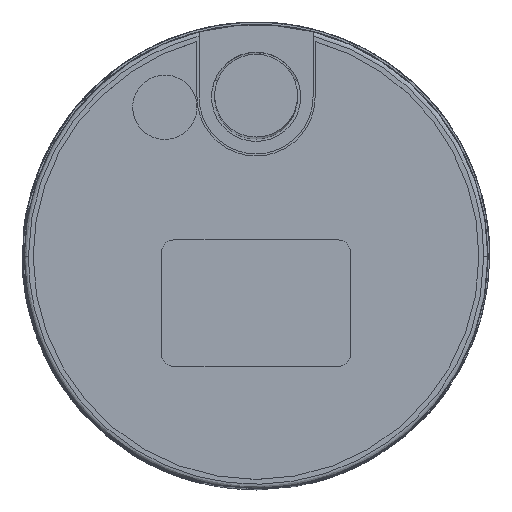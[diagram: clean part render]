
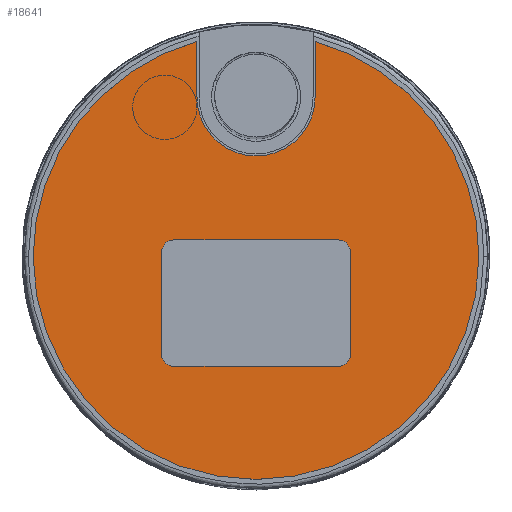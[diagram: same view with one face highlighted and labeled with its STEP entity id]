
A CAD part, top view. The second image highlights one B-rep face of the part: STEP entity #18641.
In plain terms, the highlighted planar face has unit normal (0, 0, 1).
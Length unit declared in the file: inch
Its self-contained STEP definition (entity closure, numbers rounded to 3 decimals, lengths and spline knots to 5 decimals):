
#1311 = EDGE_LOOP ( 'NONE', ( #2261, #2296, #2312, #2308, #2220, #2259 ) ) ;
#1321 = EDGE_LOOP ( 'NONE', ( #2200, #2234, #2249, #2204, #2307, #2233, #2290, #2278 ) ) ;
#2200 = ORIENTED_EDGE ( 'NONE', *, *, #27848, .T. ) ;
#2204 = ORIENTED_EDGE ( 'NONE', *, *, #27917, .T. ) ;
#2220 = ORIENTED_EDGE ( 'NONE', *, *, #27858, .T. ) ;
#2233 = ORIENTED_EDGE ( 'NONE', *, *, #27922, .T. ) ;
#2234 = ORIENTED_EDGE ( 'NONE', *, *, #27931, .T. ) ;
#2249 = ORIENTED_EDGE ( 'NONE', *, *, #27890, .T. ) ;
#2259 = ORIENTED_EDGE ( 'NONE', *, *, #27861, .T. ) ;
#2261 = ORIENTED_EDGE ( 'NONE', *, *, #27819, .T. ) ;
#2278 = ORIENTED_EDGE ( 'NONE', *, *, #27920, .T. ) ;
#2290 = ORIENTED_EDGE ( 'NONE', *, *, #27818, .T. ) ;
#2296 = ORIENTED_EDGE ( 'NONE', *, *, #27867, .T. ) ;
#2307 = ORIENTED_EDGE ( 'NONE', *, *, #27870, .T. ) ;
#2308 = ORIENTED_EDGE ( 'NONE', *, *, #27816, .T. ) ;
#2312 = ORIENTED_EDGE ( 'NONE', *, *, #27829, .T. ) ;
#3218 = VERTEX_POINT ( 'NONE', #19192 ) ;
#3233 = VERTEX_POINT ( 'NONE', #19151 ) ;
#3241 = VERTEX_POINT ( 'NONE', #19181 ) ;
#3259 = VERTEX_POINT ( 'NONE', #19184 ) ;
#3276 = VERTEX_POINT ( 'NONE', #19156 ) ;
#3311 = VERTEX_POINT ( 'NONE', #19218 ) ;
#3346 = VERTEX_POINT ( 'NONE', #19208 ) ;
#3350 = VERTEX_POINT ( 'NONE', #19214 ) ;
#3362 = VERTEX_POINT ( 'NONE', #19215 ) ;
#3367 = VERTEX_POINT ( 'NONE', #19235 ) ;
#3374 = VERTEX_POINT ( 'NONE', #19257 ) ;
#3403 = VERTEX_POINT ( 'NONE', #19231 ) ;
#3405 = VERTEX_POINT ( 'NONE', #19236 ) ;
#3410 = VERTEX_POINT ( 'NONE', #19199 ) ;
#5010 = DIRECTION ( 'NONE',  ( 0., -1., 0. ) ) ;
#5048 = CARTESIAN_POINT ( 'NONE',  ( 0.1425, 0., 0.193 ) ) ;
#5068 = DIRECTION ( 'NONE',  ( 1., 0., 0. ) ) ;
#5070 = CARTESIAN_POINT ( 'NONE',  ( 0.198, 0.01, 0.193 ) ) ;
#5088 = CARTESIAN_POINT ( 'NONE',  ( 0., 0., 0.193 ) ) ;
#5089 = DIRECTION ( 'NONE',  ( 1., 0., 0. ) ) ;
#5092 = DIRECTION ( 'NONE',  ( 0., 0., 1. ) ) ;
#5096 = DIRECTION ( 'NONE',  ( 0., 0., -1. ) ) ;
#5132 = DIRECTION ( 'NONE',  ( 1., 0., 0. ) ) ;
#5141 = CARTESIAN_POINT ( 'NONE',  ( 0., 0., 0.193 ) ) ;
#5146 = DIRECTION ( 'NONE',  ( 0., 0., 1. ) ) ;
#5174 = CARTESIAN_POINT ( 'NONE',  ( 0.198, -0.235, 0.193 ) ) ;
#5175 = DIRECTION ( 'NONE',  ( 1., 0., 0. ) ) ;
#5196 = DIRECTION ( 'NONE',  ( 0., 0., -1. ) ) ;
#5261 = DIRECTION ( 'NONE',  ( 0., 0., -1. ) ) ;
#5266 = DIRECTION ( 'NONE',  ( 0., 0., -1. ) ) ;
#5271 = DIRECTION ( 'NONE',  ( 1., 0., 0. ) ) ;
#5276 = DIRECTION ( 'NONE',  ( 1., 0., 0. ) ) ;
#5281 = CARTESIAN_POINT ( 'NONE',  ( -0.198, 0.01, 0.193 ) ) ;
#5282 = CARTESIAN_POINT ( 'NONE',  ( 0., 0.385, 0.193 ) ) ;
#5283 = CARTESIAN_POINT ( 'NONE',  ( -0.1425, 0., 0.193 ) ) ;
#5285 = CARTESIAN_POINT ( 'NONE',  ( 0., 0., 0.193 ) ) ;
#5286 = DIRECTION ( 'NONE',  ( 0., 1., 0. ) ) ;
#5288 = DIRECTION ( 'NONE',  ( 0., 0., 1. ) ) ;
#5294 = DIRECTION ( 'NONE',  ( 1., 0., 0. ) ) ;
#5463 = CARTESIAN_POINT ( 'NONE',  ( -0.198, -0.235, 0.193 ) ) ;
#5464 = DIRECTION ( 'NONE',  ( 0., 0., -1. ) ) ;
#5466 = DIRECTION ( 'NONE',  ( 1., 0., 0. ) ) ;
#5644 = DIRECTION ( 'NONE',  ( 1., 0., 0. ) ) ;
#5655 = CARTESIAN_POINT ( 'NONE',  ( 0., 0.04, 0.193 ) ) ;
#5667 = CARTESIAN_POINT ( 'NONE',  ( -0.228, 0., 0.193 ) ) ;
#5669 = DIRECTION ( 'NONE',  ( 0., 1., 0. ) ) ;
#5679 = CARTESIAN_POINT ( 'NONE',  ( 0.228, 0., 0.193 ) ) ;
#5681 = DIRECTION ( 'NONE',  ( 0., -1., 0. ) ) ;
#5689 = DIRECTION ( 'NONE',  ( -1., 0., 0. ) ) ;
#5724 = CARTESIAN_POINT ( 'NONE',  ( 0., -0.265, 0.193 ) ) ;
#11398 = AXIS2_PLACEMENT_3D ( 'NONE', #5174, #5196, #5175 ) ;
#11408 = AXIS2_PLACEMENT_3D ( 'NONE', #5282, #5266, #5294 ) ;
#11419 = AXIS2_PLACEMENT_3D ( 'NONE', #5281, #5261, #5276 ) ;
#11421 = AXIS2_PLACEMENT_3D ( 'NONE', #5463, #5464, #5466 ) ;
#11426 = AXIS2_PLACEMENT_3D ( 'NONE', #5088, #5092, #5068 ) ;
#11437 = AXIS2_PLACEMENT_3D ( 'NONE', #5141, #5146, #5132 ) ;
#11443 = AXIS2_PLACEMENT_3D ( 'NONE', #5285, #5288, #5271 ) ;
#11451 = AXIS2_PLACEMENT_3D ( 'NONE', #5070, #5096, #5089 ) ;
#14127 = LINE ( 'NONE', #5655, #14139 ) ;
#14139 = VECTOR ( 'NONE', #5644, 39.37008 ) ;
#14146 = LINE ( 'NONE', #5724, #14149 ) ;
#14149 = VECTOR ( 'NONE', #5689, 39.37008 ) ;
#14692 = CIRCLE ( 'NONE', #11426, 0.5375 ) ;
#14693 = VECTOR ( 'NONE', #5010, 39.37008 ) ;
#14703 = CIRCLE ( 'NONE', #11437, 0.5375 ) ;
#14715 = LINE ( 'NONE', #5048, #14693 ) ;
#14716 = CIRCLE ( 'NONE', #11451, 0.03 ) ;
#14726 = CIRCLE ( 'NONE', #11398, 0.03 ) ;
#14750 = LINE ( 'NONE', #5679, #14796 ) ;
#14753 = LINE ( 'NONE', #5667, #14798 ) ;
#14765 = CIRCLE ( 'NONE', #11421, 0.03 ) ;
#14771 = VECTOR ( 'NONE', #5286, 39.37008 ) ;
#14778 = CIRCLE ( 'NONE', #11408, 0.1425 ) ;
#14782 = LINE ( 'NONE', #5283, #14771 ) ;
#14786 = CIRCLE ( 'NONE', #11419, 0.03 ) ;
#14796 = VECTOR ( 'NONE', #5681, 39.37008 ) ;
#14797 = CIRCLE ( 'NONE', #11443, 0.5375 ) ;
#14798 = VECTOR ( 'NONE', #5669, 39.37008 ) ;
#18641 = ADVANCED_FACE ( 'NONE', ( #39531, #39522 ), #29544, .T. ) ;
#19151 = CARTESIAN_POINT ( 'NONE',  ( -0.228, 0.01, 0.193 ) ) ;
#19156 = CARTESIAN_POINT ( 'NONE',  ( 0.198, -0.265, 0.193 ) ) ;
#19181 = CARTESIAN_POINT ( 'NONE',  ( 0.5375, 0., 0.193 ) ) ;
#19184 = CARTESIAN_POINT ( 'NONE',  ( 0.1425, 0.385, 0.193 ) ) ;
#19192 = CARTESIAN_POINT ( 'NONE',  ( -0.1425, 0.51827, 0.193 ) ) ;
#19199 = CARTESIAN_POINT ( 'NONE',  ( -0.228, -0.235, 0.193 ) ) ;
#19208 = CARTESIAN_POINT ( 'NONE',  ( 0.1425, 0.51827, 0.193 ) ) ;
#19214 = CARTESIAN_POINT ( 'NONE',  ( 0.198, 0.04, 0.193 ) ) ;
#19215 = CARTESIAN_POINT ( 'NONE',  ( -0.198, 0.04, 0.193 ) ) ;
#19218 = CARTESIAN_POINT ( 'NONE',  ( -0.1425, 0.385, 0.193 ) ) ;
#19231 = CARTESIAN_POINT ( 'NONE',  ( -0.198, -0.265, 0.193 ) ) ;
#19235 = CARTESIAN_POINT ( 'NONE',  ( -0.5375, 0., 0.193 ) ) ;
#19236 = CARTESIAN_POINT ( 'NONE',  ( 0.228, 0.01, 0.193 ) ) ;
#19257 = CARTESIAN_POINT ( 'NONE',  ( 0.228, -0.235, 0.193 ) ) ;
#27816 = EDGE_CURVE ( 'NONE', #3346, #3259, #14715, .T. ) ;
#27818 = EDGE_CURVE ( 'NONE', #3350, #3405, #14716, .T. ) ;
#27819 = EDGE_CURVE ( 'NONE', #3218, #3367, #14692, .T. ) ;
#27829 = EDGE_CURVE ( 'NONE', #3241, #3346, #14703, .T. ) ;
#27848 = EDGE_CURVE ( 'NONE', #3374, #3276, #14726, .T. ) ;
#27858 = EDGE_CURVE ( 'NONE', #3259, #3311, #14778, .T. ) ;
#27861 = EDGE_CURVE ( 'NONE', #3311, #3218, #14782, .T. ) ;
#27867 = EDGE_CURVE ( 'NONE', #3367, #3241, #14797, .T. ) ;
#27870 = EDGE_CURVE ( 'NONE', #3233, #3362, #14786, .T. ) ;
#27890 = EDGE_CURVE ( 'NONE', #3403, #3410, #14765, .T. ) ;
#27917 = EDGE_CURVE ( 'NONE', #3410, #3233, #14753, .T. ) ;
#27920 = EDGE_CURVE ( 'NONE', #3405, #3374, #14750, .T. ) ;
#27922 = EDGE_CURVE ( 'NONE', #3362, #3350, #14127, .T. ) ;
#27931 = EDGE_CURVE ( 'NONE', #3276, #3403, #14146, .T. ) ;
#29498 = CARTESIAN_POINT ( 'NONE',  ( 0., 0., 0.193 ) ) ;
#29506 = DIRECTION ( 'NONE',  ( 0., 0., 1. ) ) ;
#29544 = PLANE ( 'NONE',  #36258 ) ;
#29608 = DIRECTION ( 'NONE',  ( 1., 0., 0. ) ) ;
#36258 = AXIS2_PLACEMENT_3D ( 'NONE', #29498, #29506, #29608 ) ;
#39522 = FACE_BOUND ( 'NONE', #1321, .T. ) ;
#39531 = FACE_OUTER_BOUND ( 'NONE', #1311, .T. ) ;
